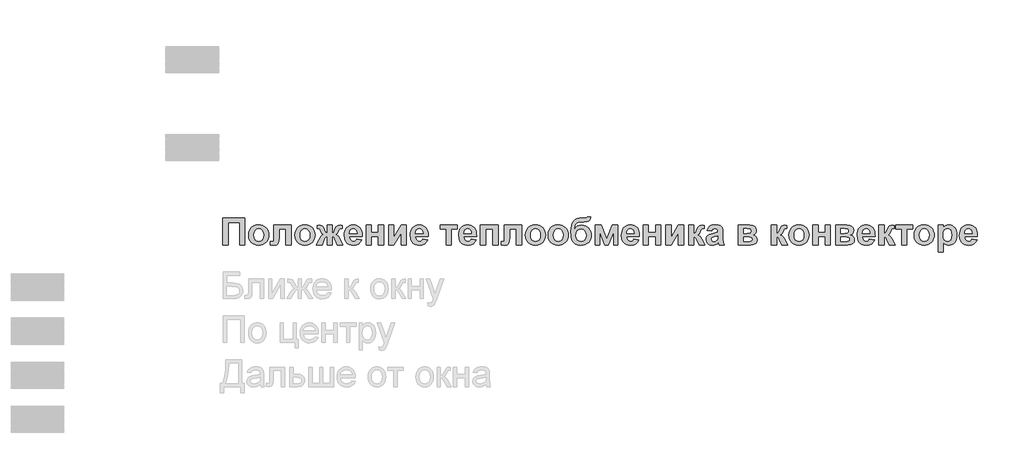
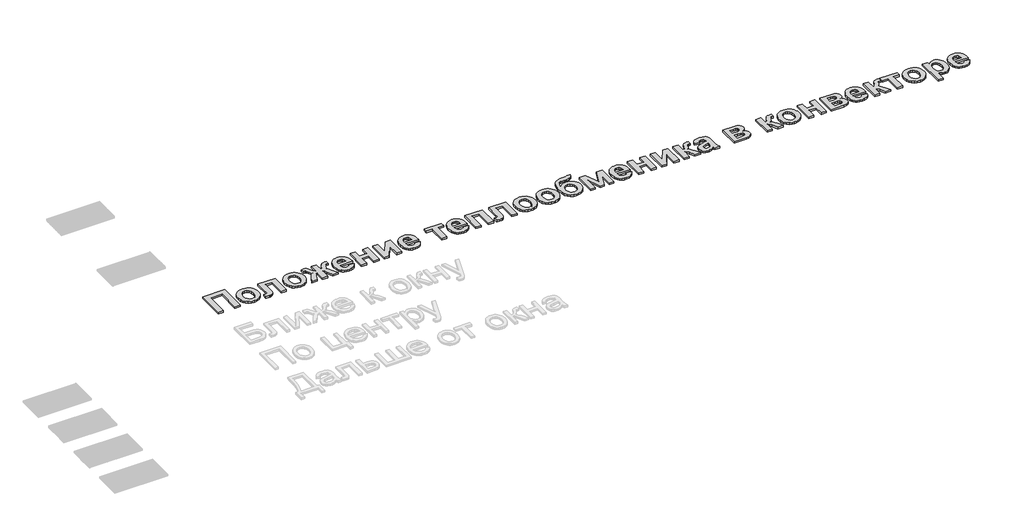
# One storey, part 8 of 10: 1 proxy.
"""IFC4 building model written with IfcOpenShell, lengths in millimetres."""

import ifcopenshell
import ifcopenshell.guid

model = None  # the IFC model being written
_history = None  # IfcOwnerHistory: only IFC2X3 demands one
_inside = {}  # id of a spatial element -> (the spatial element, [elements in it])
_under = {}  # id of a project, library or spatial element -> (it, [spatial elements below it])
_declared = {}  # id of a project -> (the project, [libraries it declares])
_typed = {}  # id of a type object -> (the type object, [elements of that type])
_made_of = {}  # id of a material, layer set ... -> (it, [elements and type objects made of it])


def new_model(schema):
    """Start an empty IFC model of exactly this schema.

    Asked for "IFC4X3", IfcOpenShell would pick the latest addendum, in which some entities
    have other attributes; the version numbers below select the first issue.
    IFC2X3 requires an IfcOwnerHistory on every rooted entity: one is made here for all.
    """
    global model, _history
    if schema == "IFC4X3":
        model = ifcopenshell.file(schema_version=(4, 3, 0, 0))
    else:
        model = ifcopenshell.file(schema=schema)
    _inside.clear()
    _under.clear()
    _declared.clear()
    _typed.clear()
    _made_of.clear()
    _history = None
    if model.schema == "IFC2X3":
        org = make("IfcOrganization", Name="unknown")
        user = make(
            "IfcPersonAndOrganization",
            ThePerson=make("IfcPerson", FamilyName="unknown"),
            TheOrganization=org,
        )
        app = make(
            "IfcApplication",
            ApplicationDeveloper=org,
            Version="unknown",
            ApplicationFullName="unknown",
            ApplicationIdentifier="unknown",
        )
        _history = make(
            "IfcOwnerHistory",
            OwningUser=user,
            OwningApplication=app,
            ChangeAction="ADDED",
            CreationDate=0,
        )
    return model


def make(cls, **values):
    """One entity of the class cls with the attributes given. An attribute that is None is left unset."""
    return model.create_entity(
        cls, **{name: value for name, value in values.items() if value is not None}
    )


def rooted(cls, **values):
    """An entity with a GlobalId (a new one), such as an element, a storey or a relation."""
    return make(cls, GlobalId=ifcopenshell.guid.new(), OwnerHistory=_history, **values)


def si_unit(unit_type, name, prefix=None):
    """IfcSIUnit, for example si_unit("LENGTHUNIT", "METRE", prefix="MILLI")."""
    return make("IfcSIUnit", UnitType=unit_type, Prefix=prefix, Name=name)


def assignment(units):
    """IfcUnitAssignment: the units of a project."""
    return None if units is None else make("IfcUnitAssignment", Units=units)


def point(xyz):
    """IfcCartesianPoint."""
    return None if xyz is None else make("IfcCartesianPoint", Coordinates=xyz)


def direction(xyz):
    """IfcDirection."""
    return None if xyz is None else make("IfcDirection", DirectionRatios=xyz)


def frame(location, z_axis=None, x_axis=None):
    """IfcAxis2Placement3D, a coordinate frame: its origin and axes. An axis left out is left unset."""
    return make(
        "IfcAxis2Placement3D",
        Location=point(location),
        Axis=direction(z_axis),
        RefDirection=direction(x_axis),
    )


def origin():
    """The frame at (0, 0, 0) with its axes left unset."""
    return frame((0.0, 0.0, 0.0))


def origin_with_axes():
    """The frame at (0, 0, 0) with the z axis (0, 0, 1) and the x axis (1, 0, 0) written out."""
    return frame((0.0, 0.0, 0.0), z_axis=(0.0, 0.0, 1.0), x_axis=(1.0, 0.0, 0.0))


def place(relative_to, where):
    """IfcLocalPlacement: puts the frame where relative to a parent placement (None: the world)."""
    return make(
        "IfcLocalPlacement", PlacementRelTo=relative_to, RelativePlacement=where
    )


def context(
    kind, dimensions, precision=None, world=None, true_north=None, identifier=None
):
    """IfcGeometricRepresentationContext, for example the 3D "Model" context."""
    return make(
        "IfcGeometricRepresentationContext",
        ContextIdentifier=identifier,
        ContextType=kind,
        CoordinateSpaceDimension=dimensions,
        Precision=precision,
        WorldCoordinateSystem=world,
        TrueNorth=true_north,
    )


def project(units=None, contexts=None):
    """IfcProject with its units and contexts."""
    return rooted(
        "IfcProject",
        Name="project",
        RepresentationContexts=contexts,
        UnitsInContext=assignment(units),
    )


def spatial(cls, under=None, at=None, **own):
    """A site, building, storey or space (cls), placed at a placement, below another one or the project."""
    s = rooted(cls, ObjectPlacement=at, **own)
    if under is not None:
        _under.setdefault(under.id(), (under, []))[1].append(s)
    return s


def polyline(points):
    """IfcPolyline through the points."""
    return make("IfcPolyline", Points=[point(p) for p in points])


def outline(outer, holes=None, kind="AREA"):
    """IfcArbitraryClosedProfileDef: a profile drawn as a closed curve; with holes, ...WithVoids."""
    if holes is None:
        return make("IfcArbitraryClosedProfileDef", ProfileType=kind, OuterCurve=outer)
    return make(
        "IfcArbitraryProfileDefWithVoids",
        ProfileType=kind,
        OuterCurve=outer,
        InnerCurves=holes,
    )


def extrude(swept, where, along, depth):
    """IfcExtrudedAreaSolid: the profile swept, set in the frame where, extruded along a direction by depth."""
    return make(
        "IfcExtrudedAreaSolid",
        SweptArea=swept,
        Position=where,
        ExtrudedDirection=direction(along),
        Depth=depth,
    )


def shape(context_of_items, identifier, shape_type, items):
    """IfcShapeRepresentation: the items that make up one representation, for example the "Body"."""
    return make(
        "IfcShapeRepresentation",
        ContextOfItems=context_of_items,
        RepresentationIdentifier=identifier,
        RepresentationType=shape_type,
        Items=items,
    )


def made_of(thing, what):
    """Note that an element or type object is made of a material, layer set ...; save() writes the relation."""
    if what is not None:
        _made_of.setdefault(what.id(), (what, []))[1].append(thing)
    return thing


def element(
    cls,
    number,
    at=None,
    inside=None,
    cuts=None,
    type_object=None,
    material=None,
    context=None,
    identifier="Body",
    shape_type=None,
    held_by="IfcProductDefinitionShape",
    body=None,
    shapes=None,
    **own,
):
    """One element of the class cls, such as IfcWall. Its Tag is "e" and its number.

    at: its placement. inside: the storey or other place that contains it. cuts: it is an
    opening in that element (IfcRelVoidsElement). A single representation is given by context,
    identifier, shape_type and body (its items); several are given by shapes. held_by: the class
    of the entity that holds the representations. save() writes the other relations.
    """
    e = rooted(cls, Tag="e%d" % number, ObjectPlacement=at, **own)
    if body is not None:
        shapes = [shape(context, identifier, shape_type, body)]
    if shapes is not None:
        e.Representation = make(held_by, Representations=shapes)
    if inside is not None:
        _inside.setdefault(inside.id(), (inside, []))[1].append(e)
    if cuts is not None:
        rooted(
            "IfcRelVoidsElement", RelatingBuildingElement=cuts, RelatedOpeningElement=e
        )
    if type_object is not None:
        _typed.setdefault(type_object.id(), (type_object, []))[1].append(e)
    return made_of(e, material)


def aggregate(whole, parts):
    """IfcRelAggregates: a whole, such as a stair, and the parts it consists of."""
    return rooted("IfcRelAggregates", RelatingObject=whole, RelatedObjects=parts)


def save(model, path):
    """Write the relations noted so far, then the file.

    IfcRelAggregates (storeys below a building ...), IfcRelContainedInSpatialStructure (elements
    in a storey), IfcRelDefinesByType, IfcRelAssociatesMaterial and IfcRelDeclares: one each for
    every whole, place, type object, material and project.
    """
    for whole, parts in _under.values():
        aggregate(whole, parts)
    for where, things in _inside.values():
        rooted(
            "IfcRelContainedInSpatialStructure",
            RelatedElements=things,
            RelatingStructure=where,
        )
    for kind, things in _typed.values():
        rooted("IfcRelDefinesByType", RelatedObjects=things, RelatingType=kind)
    for what, things in _made_of.values():
        rooted("IfcRelAssociatesMaterial", RelatedObjects=things, RelatingMaterial=what)
    for by, libraries in _declared.values():
        rooted("IfcRelDeclares", RelatingContext=by, RelatedDefinitions=libraries)
    model.write(path)


model = new_model("IFC4")

# Units and contexts
model_context = context("Model", 3, world=origin())
ifc_project = project(units=[si_unit("LENGTHUNIT", "METRE", prefix="MILLI")], contexts=[model_context])

# Site, building, storey
site = spatial("IfcSite", under=ifc_project)
building = spatial("IfcBuilding", under=site)
storey = spatial("IfcBuildingStorey", under=building, Name="Уровень 1", Elevation=0.0)

# Proxy
placement = place(None, origin())
element("IfcBuildingElementProxy", 1, Name="300_", ObjectType="300_", at=placement, inside=storey, context=model_context, shape_type="SweptSolid", body=[
    extrude(outline(polyline([(14598.0356699, -17600.3985377), (14845.8129527, -17600.3985377), (14845.8129527, -17906.4763576), (14787.5124156, -17906.4763576), (14787.5124156, -17653.8406967), (14656.336207, -17653.8406967), (14656.336207, -17906.4763576), (14598.0356699, -17906.4763576), (14598.0356699, -17600.3985377)])), origin_with_axes(), (0.0, 0.0, 1.0), 20.0),
    extrude(outline(polyline([(14889.5383556, -17791.5453508), (14893.134694, -17762.6323078), (14903.9237095, -17734.6491886), (14921.2981046, -17710.3857652), (14944.6505821, -17692.6318093), (14972.529322, -17681.7573927), (15003.4825043, -17678.1325872), (15027.4731184, -17680.1869599), (15049.1911123, -17686.3500783), (15068.636486, -17696.6219421), (15085.8092394, -17711.0025515), (15099.8411273, -17728.5240264), (15109.8639044, -17748.2184868), (15115.8775706, -17770.0859327), (15117.882126, -17794.1263642), (15115.8562203, -17818.3589483), (15109.7785032, -17840.4232914), (15099.6489747, -17860.3193935), (15085.4676347, -17878.0472546), (15068.2165968, -17892.6105276), (15048.8779747, -17903.0128655), (15027.4517681, -17909.2542682), (15003.9379773, -17911.3347357), (14974.2088785, -17907.8712435), (14945.9031327, -17897.480767), (14921.6112422, -17880.3910424), (14903.9237095, -17856.8298065), (14893.134694, -17827.1101967), (14889.5383556, -17791.5453508)]), holes=[polyline([(14947.8388927, -17794.7336615), (14951.8717261, -17825.9050912), (14963.9702262, -17848.8210738), (14981.9898747, -17862.9122681), (15003.786153, -17867.6093329), (15025.5634532, -17862.9122681), (15043.5261675, -17848.8210738), (15055.5677336, -17825.791223), (15059.5815889, -17794.2781885), (15055.5677336, -17763.4483635), (15043.5261675, -17740.6462491), (15025.5634532, -17726.5550548), (15003.786153, -17721.85799), (14981.9898747, -17726.5550548), (14963.9702262, -17740.6462491), (14951.8717261, -17763.5622317), (14947.8388927, -17794.7336615)])]), origin_with_axes(), (0.0, 0.0, 1.0), 20.0),
    extrude(outline(polyline([(15176.1826632, -17682.9909653), (15370.517787, -17682.9909653), (15370.517787, -17906.4763576), (15312.2172498, -17906.4763576), (15312.2172498, -17726.7163681), (15234.4832003, -17726.7163681), (15234.4832003, -17830.108727), (15232.3386819, -17863.6429226), (15225.9051265, -17885.44869), (15216.8715797, -17898.6479164), (15206.9270871, -17906.3624894), (15193.3577889, -17910.0916742), (15173.4498255, -17911.3347357), (15137.3156384, -17907.7668643), (15137.3156384, -17866.5465627), (15146.5769217, -17867.0020356), (15159.8615493, -17867.6093329), (15168.9235631, -17865.5976607), (15173.6396059, -17859.5626442), (15176.1826632, -17814.7744711), (15176.1826632, -17682.9909653)])), origin_with_axes(), (0.0, 0.0, 1.0), 20.0),
    extrude(outline(polyline([(15414.2431898, -17791.5453508), (15417.8395283, -17762.6323078), (15428.6285437, -17734.6491886), (15446.0029388, -17710.3857652), (15469.3554164, -17692.6318093), (15497.2341563, -17681.7573927), (15528.1873386, -17678.1325872), (15552.1779527, -17680.1869599), (15573.8959466, -17686.3500783), (15593.3413202, -17696.6219421), (15610.5140737, -17711.0025515), (15624.5459616, -17728.5240264), (15634.5687386, -17748.2184868), (15640.5824049, -17770.0859327), (15642.5869603, -17794.1263642), (15640.5610546, -17818.3589483), (15634.4833375, -17840.4232914), (15624.3538089, -17860.3193935), (15610.172469, -17878.0472546), (15592.9214311, -17892.6105276), (15573.5828089, -17903.0128655), (15552.1566024, -17909.2542682), (15528.6428115, -17911.3347357), (15498.9137128, -17907.8712435), (15470.607967, -17897.480767), (15446.3160765, -17880.3910424), (15428.6285437, -17856.8298065), (15417.8395283, -17827.1101967), (15414.2431898, -17791.5453508)]), holes=[polyline([(15472.543727, -17794.7336615), (15476.5765604, -17825.9050912), (15488.6750605, -17848.8210738), (15506.6947089, -17862.9122681), (15528.4909872, -17867.6093329), (15550.2682875, -17862.9122681), (15568.2310018, -17848.8210738), (15580.2725678, -17825.791223), (15584.2864232, -17794.2781885), (15580.2725678, -17763.4483635), (15568.2310018, -17740.6462491), (15550.2682875, -17726.5550548), (15528.4909872, -17721.85799), (15506.6947089, -17726.5550548), (15488.6750605, -17740.6462491), (15476.5765604, -17763.5622317), (15472.543727, -17794.7336615)])]), origin_with_axes(), (0.0, 0.0, 1.0), 20.0),
    extrude(outline(polyline([(15778.621547, -17906.4763576), (15778.621547, -17809.3087957), (15763.4011593, -17814.5467346), (15748.332596, -17840.6605169), (15721.6115165, -17906.4763576), (15657.1620946, -17906.4763576), (15688.1342549, -17843.621091), (15712.1414748, -17806.063551), (15724.500923, -17794.9281864), (15737.0975967, -17788.8884253), (15720.8523949, -17776.2490511), (15708.858274, -17752.4505896), (15701.8079324, -17734.9148812), (15695.383866, -17726.184983), (15685.2021479, -17722.9397383), (15666.8788508, -17721.85799), (15666.8788508, -17683.9778233), (15690.3357075, -17682.9909653), (15707.7955038, -17685.0216155), (15722.5224624, -17691.1135662), (15735.4844633, -17705.2901616), (15747.6493866, -17731.5747462), (15762.2245209, -17763.4198964), (15769.0566151, -17768.4965219), (15778.621547, -17770.441771), (15778.621547, -17682.9909653), (15836.9220841, -17682.9909653), (15836.9220841, -17770.441771), (15846.515483, -17768.7052804), (15853.4329784, -17763.4958086), (15867.8942445, -17731.5747462), (15879.8124532, -17705.5273871), (15892.4897836, -17691.3033465), (15907.3875445, -17685.0690606), (15925.9670451, -17682.9909653), (15948.6647803, -17683.9778233), (15948.6647803, -17721.85799), (15930.4363734, -17722.9397383), (15920.2356772, -17726.184983), (15913.7546768, -17734.9148812), (15906.6853571, -17752.4505896), (15894.6912361, -17776.2490511), (15878.4460344, -17788.8884253), (15891.0427081, -17794.9281864), (15903.4021562, -17806.063551), (15927.4093761, -17843.621091), (15958.3815365, -17906.4763576), (15893.9321146, -17906.4763576), (15867.4387715, -17840.6605169), (15854.1541439, -17816.5963629), (15846.8096426, -17811.5482044), (15836.9220841, -17809.3087957), (15836.9220841, -17906.4763576), (15778.621547, -17906.4763576)])), origin_with_axes(), (0.0, 0.0, 1.0), 20.0),
    extrude(outline(polyline([(16113.8496355, -17838.4590643), (16172.1501727, -17848.1758205), (16157.9545992, -17875.38084), (16137.3824044, -17895.2034022), (16110.6423469, -17907.3019024), (16077.9431849, -17911.3347357), (16051.5399876, -17908.9577363), (16028.8090408, -17901.826738), (16009.7503447, -17889.9417408), (15994.3638992, -17873.3027447), (15984.9982368, -17857.0812655), (15978.3084779, -17838.8576031), (15972.9566708, -17796.4037289), (15974.7311175, -17770.1950565), (15980.0544575, -17746.9849142), (15988.9266909, -17726.7733022), (16001.3478178, -17709.5602205), (16016.4828042, -17695.8106309), (16033.4966166, -17685.9894955), (16052.3892548, -17680.0968143), (16073.160719, -17678.1325872), (16096.2427594, -17680.1490039), (16116.7532756, -17686.1982539), (16134.6922673, -17696.2803374), (16150.0597348, -17710.3952542), (16162.3053147, -17728.6758507), (16170.878644, -17751.2549731), (16175.7797227, -17778.1326215), (16177.0085508, -17809.3087957), (16031.2572079, -17809.3087957), (16034.9958817, -17833.8663788), (16044.9973085, -17852.275077), (16059.7432451, -17863.7757689), (16077.7154484, -17867.6093329), (16089.9562839, -17865.8823313), (16100.109535, -17860.7013265), (16108.0992896, -17851.6867578), (16113.8496355, -17838.4590643)]), holes=[polyline([(16118.7080136, -17775.3001491), (16115.1591202, -17752.2513202), (16105.7270346, -17735.4842223), (16092.0248902, -17725.2645481), (16075.6658202, -17721.85799), (16058.3958043, -17725.4448395), (16044.3900112, -17736.2053878), (16035.2046401, -17753.1907331), (16032.244066, -17775.3001491), (16118.7080136, -17775.3001491)])]), origin_with_axes(), (0.0, 0.0, 1.0), 20.0),
    extrude(outline(polyline([(16220.7339536, -17682.9909653), (16279.0344908, -17682.9909653), (16279.0344908, -17765.5833929), (16361.6269184, -17765.5833929), (16361.6269184, -17682.9909653), (16419.9274555, -17682.9909653), (16419.9274555, -17906.4763576), (16361.6269184, -17906.4763576), (16361.6269184, -17809.3087957), (16279.0344908, -17809.3087957), (16279.0344908, -17906.4763576), (16220.7339536, -17906.4763576), (16220.7339536, -17682.9909653)])), origin_with_axes(), (0.0, 0.0, 1.0), 20.0),
    extrude(outline(polyline([(16478.2279926, -17682.9909653), (16536.5285298, -17682.9909653), (16536.5285298, -17820.4678829), (16619.1209574, -17682.9909653), (16677.4214945, -17682.9909653), (16677.4214945, -17906.4763576), (16619.1209574, -17906.4763576), (16619.1209574, -17768.9235278), (16536.5285298, -17906.4763576), (16478.2279926, -17906.4763576), (16478.2279926, -17682.9909653)])), origin_with_axes(), (0.0, 0.0, 1.0), 20.0),
    extrude(outline(polyline([(16862.0398622, -17838.4590643), (16920.3403993, -17848.1758205), (16906.1448258, -17875.38084), (16885.5726311, -17895.2034022), (16858.8325735, -17907.3019024), (16826.1334115, -17911.3347357), (16799.7302142, -17908.9577363), (16776.9992675, -17901.826738), (16757.9405714, -17889.9417408), (16742.5541259, -17873.3027447), (16733.1884634, -17857.0812655), (16726.4987045, -17838.8576031), (16721.1468974, -17796.4037289), (16722.9213441, -17770.1950565), (16728.2446841, -17746.9849142), (16737.1169176, -17726.7733022), (16749.5380444, -17709.5602205), (16764.6730308, -17695.8106309), (16781.6868432, -17685.9894955), (16800.5794815, -17680.0968143), (16821.3509456, -17678.1325872), (16844.4329861, -17680.1490039), (16864.9435022, -17686.1982539), (16882.882494, -17696.2803374), (16898.2499614, -17710.3952542), (16910.4955413, -17728.6758507), (16919.0688707, -17751.2549731), (16923.9699493, -17778.1326215), (16925.1987774, -17809.3087957), (16779.4474345, -17809.3087957), (16783.1861083, -17833.8663788), (16793.1875351, -17852.275077), (16807.9334717, -17863.7757689), (16825.9056751, -17867.6093329), (16838.1465105, -17865.8823313), (16848.2997616, -17860.7013265), (16856.2895162, -17851.6867578), (16862.0398622, -17838.4590643)]), holes=[polyline([(16866.8982403, -17775.3001491), (16863.3493469, -17752.2513202), (16853.9172613, -17735.4842223), (16840.2151168, -17725.2645481), (16823.8560468, -17721.85799), (16806.5860309, -17725.4448395), (16792.5802378, -17736.2053878), (16783.3948667, -17753.1907331), (16780.4342926, -17775.3001491), (16866.8982403, -17775.3001491)])]), origin_with_axes(), (0.0, 0.0, 1.0), 20.0),
    extrude(outline(polyline([(17061.2333641, -17682.9909653), (17255.5684879, -17682.9909653), (17255.5684879, -17726.7163681), (17187.5511945, -17726.7163681), (17187.5511945, -17906.4763576), (17129.2506574, -17906.4763576), (17129.2506574, -17726.7163681), (17061.2333641, -17726.7163681), (17061.2333641, -17682.9909653)])), origin_with_axes(), (0.0, 0.0, 1.0), 20.0),
    extrude(outline(polyline([(17411.0365869, -17838.4590643), (17469.337124, -17848.1758205), (17455.1415505, -17875.38084), (17434.5693558, -17895.2034022), (17407.8292982, -17907.3019024), (17375.1301363, -17911.3347357), (17348.7269389, -17908.9577363), (17325.9959922, -17901.826738), (17306.9372961, -17889.9417408), (17291.5508506, -17873.3027447), (17282.1851882, -17857.0812655), (17275.4954293, -17838.8576031), (17270.1436221, -17796.4037289), (17271.9180688, -17770.1950565), (17277.2414089, -17746.9849142), (17286.1136423, -17726.7733022), (17298.5347691, -17709.5602205), (17313.6697556, -17695.8106309), (17330.6835679, -17685.9894955), (17349.5762062, -17680.0968143), (17370.3476703, -17678.1325872), (17393.4297108, -17680.1490039), (17413.9402269, -17686.1982539), (17431.8792187, -17696.2803374), (17447.2466861, -17710.3952542), (17459.4922661, -17728.6758507), (17468.0655954, -17751.2549731), (17472.9666741, -17778.1326215), (17474.1955021, -17809.3087957), (17328.4441593, -17809.3087957), (17332.182833, -17833.8663788), (17342.1842598, -17852.275077), (17356.9301965, -17863.7757689), (17374.9023998, -17867.6093329), (17387.1432352, -17865.8823313), (17397.2964863, -17860.7013265), (17405.2862409, -17851.6867578), (17411.0365869, -17838.4590643)]), holes=[polyline([(17415.894965, -17775.3001491), (17412.3460716, -17752.2513202), (17402.913986, -17735.4842223), (17389.2118415, -17725.2645481), (17372.8527716, -17721.85799), (17355.5827557, -17725.4448395), (17341.5769626, -17736.2053878), (17332.3915915, -17753.1907331), (17329.4310173, -17775.3001491), (17415.894965, -17775.3001491)])]), origin_with_axes(), (0.0, 0.0, 1.0), 20.0),
    extrude(outline(polyline([(17517.920905, -17682.9909653), (17717.1144069, -17682.9909653), (17717.1144069, -17906.4763576), (17658.8138697, -17906.4763576), (17658.8138697, -17726.7163681), (17576.2214421, -17726.7163681), (17576.2214421, -17906.4763576), (17517.920905, -17906.4763576), (17517.920905, -17682.9909653)])), origin_with_axes(), (0.0, 0.0, 1.0), 20.0),
    extrude(outline(polyline([(17789.9900783, -17682.9909653), (17984.3252021, -17682.9909653), (17984.3252021, -17906.4763576), (17926.024665, -17906.4763576), (17926.024665, -17726.7163681), (17848.2906154, -17726.7163681), (17848.2906154, -17830.108727), (17846.146097, -17863.6429226), (17839.7125416, -17885.44869), (17830.6789949, -17898.6479164), (17820.7345022, -17906.3624894), (17807.165204, -17910.0916742), (17787.2572406, -17911.3347357), (17751.1230535, -17907.7668643), (17751.1230535, -17866.5465627), (17760.3843368, -17867.0020356), (17773.6689644, -17867.6093329), (17782.7309782, -17865.5976607), (17787.447021, -17859.5626442), (17789.9900783, -17814.7744711), (17789.9900783, -17682.9909653)])), origin_with_axes(), (0.0, 0.0, 1.0), 20.0),
    extrude(outline(polyline([(18028.050605, -17791.5453508), (18031.6469434, -17762.6323078), (18042.4359589, -17734.6491886), (18059.810354, -17710.3857652), (18083.1628315, -17692.6318093), (18111.0415714, -17681.7573927), (18141.9947537, -17678.1325872), (18165.9853678, -17680.1869599), (18187.7033617, -17686.3500783), (18207.1487354, -17696.6219421), (18224.3214888, -17711.0025515), (18238.3533767, -17728.5240264), (18248.3761538, -17748.2184868), (18254.38982, -17770.0859327), (18256.3943754, -17794.1263642), (18254.3684697, -17818.3589483), (18248.2907526, -17840.4232914), (18238.161224, -17860.3193935), (18223.9798841, -17878.0472546), (18206.7288462, -17892.6105276), (18187.390224, -17903.0128655), (18165.9640175, -17909.2542682), (18142.4502267, -17911.3347357), (18112.7211279, -17907.8712435), (18084.4153821, -17897.480767), (18060.1234916, -17880.3910424), (18042.4359589, -17856.8298065), (18031.6469434, -17827.1101967), (18028.050605, -17791.5453508)]), holes=[polyline([(18086.3511421, -17794.7336615), (18090.3839755, -17825.9050912), (18102.4824756, -17848.8210738), (18120.5021241, -17862.9122681), (18142.2984024, -17867.6093329), (18164.0757026, -17862.9122681), (18182.0384169, -17848.8210738), (18194.079983, -17825.791223), (18198.0938383, -17794.2781885), (18194.079983, -17763.4483635), (18182.0384169, -17740.6462491), (18164.0757026, -17726.5550548), (18142.2984024, -17721.85799), (18120.5021241, -17726.5550548), (18102.4824756, -17740.6462491), (18090.3839755, -17763.5622317), (18086.3511421, -17794.7336615)])]), origin_with_axes(), (0.0, 0.0, 1.0), 20.0),
    extrude(outline(polyline([(18285.544644, -17791.5453508), (18289.1409825, -17762.6323078), (18299.9299979, -17734.6491886), (18317.304393, -17710.3857652), (18340.6568705, -17692.6318093), (18368.5356104, -17681.7573927), (18399.4887928, -17678.1325872), (18423.4794069, -17680.1869599), (18445.1974007, -17686.3500783), (18464.6427744, -17696.6219421), (18481.8155278, -17711.0025515), (18495.8474157, -17728.5240264), (18505.8701928, -17748.2184868), (18511.8838591, -17770.0859327), (18513.8884145, -17794.1263642), (18511.8625088, -17818.3589483), (18505.7847916, -17840.4232914), (18495.6552631, -17860.3193935), (18481.4739231, -17878.0472546), (18464.2228853, -17892.6105276), (18444.8842631, -17903.0128655), (18423.4580566, -17909.2542682), (18399.9442657, -17911.3347357), (18370.2151669, -17907.8712435), (18341.9094211, -17897.480767), (18317.6175306, -17880.3910424), (18299.9299979, -17856.8298065), (18289.1409825, -17827.1101967), (18285.544644, -17791.5453508)]), holes=[polyline([(18343.8451811, -17794.7336615), (18347.8780145, -17825.9050912), (18359.9765147, -17848.8210738), (18377.9961631, -17862.9122681), (18399.7924414, -17867.6093329), (18421.5697416, -17862.9122681), (18439.532456, -17848.8210738), (18451.574022, -17825.791223), (18455.5878773, -17794.2781885), (18451.574022, -17763.4483635), (18439.532456, -17740.6462491), (18421.5697416, -17726.5550548), (18399.7924414, -17721.85799), (18377.9961631, -17726.5550548), (18359.9765147, -17740.6462491), (18347.8780145, -17763.5622317), (18343.8451811, -17794.7336615)])]), origin_with_axes(), (0.0, 0.0, 1.0), 20.0),
    extrude(outline(polyline([(18727.6570506, -17590.6817815), (18766.5240754, -17590.6817815), (18761.9313899, -17613.8919237), (18752.1007654, -17630.6874886), (18743.5891148, -17636.6323594), (18730.5037566, -17640.8786958), (18690.6119177, -17644.2757648), (18678.8455332, -17644.1239405), (18671.1024931, -17644.1239405), (18644.7419964, -17645.6232056), (18623.8092189, -17650.121001), (18607.2413904, -17658.9268113), (18593.9757409, -17673.3501212), (18585.1509525, -17695.8770541), (18581.9057078, -17728.9937329), (18597.391788, -17708.8200769), (18616.8253004, -17694.4537011), (18640.2631791, -17685.8566492), (18667.7623582, -17682.9909653), (18689.6250596, -17685.1354837), (18709.7417814, -17691.5690391), (18728.1125236, -17702.2916314), (18744.7372861, -17717.3032606), (18758.5200873, -17735.1331286), (18768.3649452, -17754.3104375), (18774.27186, -17774.8351871), (18776.2408316, -17796.7073776), (18774.1935756, -17819.4098572), (18768.0518076, -17840.4517585), (18757.8155276, -17859.8330812), (18743.4847355, -17877.5538256), (18725.8517646, -17892.3329738), (18705.708948, -17902.8895082), (18683.0562857, -17909.2234289), (18657.8937777, -17911.3347357), (18623.8092189, -17907.0931439), (18594.1275652, -17894.3683685), (18570.5663292, -17874.2801137), (18554.8430236, -17847.948084), (18545.9897682, -17808.8343448), (18543.038683, -17750.4009613), (18544.9412315, -17713.2087486), (18550.6488769, -17681.6435245), (18560.1616191, -17655.7052891), (18573.4794583, -17635.3940424), (18591.5370628, -17620.0835091), (18615.2691011, -17609.1474138), (18644.6755732, -17602.5857567), (18679.7564791, -17600.3985377), (18710.500903, -17600.3985377), (18721.2045172, -17597.9693486), (18727.6570506, -17590.6817815)]), holes=[polyline([(18601.3392202, -17797.0869384), (18605.4954108, -17826.256185), (18617.9639827, -17848.6312935), (18636.4675712, -17862.864823), (18658.7288114, -17867.6093329), (18682.3564705, -17862.6940207), (18701.3155319, -17847.948084), (18713.7841038, -17825.4401293), (18717.9402945, -17797.2387627), (18713.7271697, -17768.6388572), (18701.0877954, -17746.1498805), (18682.2426023, -17731.5747462), (18659.4120208, -17726.7163681), (18637.0653794, -17731.489345), (18618.3055874, -17745.8082758), (18605.580812, -17768.1738953), (18601.3392202, -17797.0869384)])]), origin_with_axes(), (0.0, 0.0, 1.0), 20.0),
    extrude(outline(polyline([(18819.9662345, -17682.9909653), (18886.6930211, -17682.9909653), (18948.713254, -17838.6868008), (19011.3407841, -17682.9909653), (19077.4602735, -17682.9909653), (19077.4602735, -17906.4763576), (19028.8764925, -17906.4763576), (19028.8764925, -17759.358596), (18969.6650095, -17906.4763576), (18927.1542012, -17906.4763576), (18868.5500154, -17759.358596), (18868.5500154, -17906.4763576), (18819.9662345, -17906.4763576), (18819.9662345, -17682.9909653)])), origin_with_axes(), (0.0, 0.0, 1.0), 20.0),
    extrude(outline(polyline([(19257.220263, -17838.4590643), (19315.5208001, -17848.1758205), (19301.3252267, -17875.38084), (19280.7530319, -17895.2034022), (19254.0129743, -17907.3019024), (19221.3138124, -17911.3347357), (19194.910615, -17908.9577363), (19172.1796683, -17901.826738), (19153.1209722, -17889.9417408), (19137.7345267, -17873.3027447), (19128.3688643, -17857.0812655), (19121.6791054, -17838.8576031), (19116.3272983, -17796.4037289), (19118.1017449, -17770.1950565), (19123.425085, -17746.9849142), (19132.2973184, -17726.7733022), (19144.7184452, -17709.5602205), (19159.8534317, -17695.8106309), (19176.867244, -17685.9894955), (19195.7598823, -17680.0968143), (19216.5313465, -17678.1325872), (19239.6133869, -17680.1490039), (19260.123903, -17686.1982539), (19278.0628948, -17696.2803374), (19293.4303622, -17710.3952542), (19305.6759422, -17728.6758507), (19314.2492715, -17751.2549731), (19319.1503502, -17778.1326215), (19320.3791782, -17809.3087957), (19174.6278354, -17809.3087957), (19178.3665092, -17833.8663788), (19188.3679359, -17852.275077), (19203.1138726, -17863.7757689), (19221.0860759, -17867.6093329), (19233.3269114, -17865.8823313), (19243.4801625, -17860.7013265), (19251.4699171, -17851.6867578), (19257.220263, -17838.4590643)]), holes=[polyline([(19262.0786411, -17775.3001491), (19258.5297477, -17752.2513202), (19249.0976621, -17735.4842223), (19235.3955177, -17725.2645481), (19219.0364477, -17721.85799), (19201.7664318, -17725.4448395), (19187.7606387, -17736.2053878), (19178.5752676, -17753.1907331), (19175.6146934, -17775.3001491), (19262.0786411, -17775.3001491)])]), origin_with_axes(), (0.0, 0.0, 1.0), 20.0),
    extrude(outline(polyline([(19364.1045811, -17682.9909653), (19422.4051182, -17682.9909653), (19422.4051182, -17765.5833929), (19504.9975459, -17765.5833929), (19504.9975459, -17682.9909653), (19563.298083, -17682.9909653), (19563.298083, -17906.4763576), (19504.9975459, -17906.4763576), (19504.9975459, -17809.3087957), (19422.4051182, -17809.3087957), (19422.4051182, -17906.4763576), (19364.1045811, -17906.4763576), (19364.1045811, -17682.9909653)])), origin_with_axes(), (0.0, 0.0, 1.0), 20.0),
    extrude(outline(polyline([(19621.5986201, -17682.9909653), (19679.8991573, -17682.9909653), (19679.8991573, -17820.4678829), (19762.4915849, -17682.9909653), (19820.792122, -17682.9909653), (19820.792122, -17906.4763576), (19762.4915849, -17906.4763576), (19762.4915849, -17768.9235278), (19679.8991573, -17906.4763576), (19621.5986201, -17906.4763576), (19621.5986201, -17682.9909653)])), origin_with_axes(), (0.0, 0.0, 1.0), 20.0),
    extrude(outline(polyline([(19879.0926592, -17682.9909653), (19937.3931963, -17682.9909653), (19937.3931963, -17775.3001491), (19949.7004549, -17772.2162177), (19957.7756107, -17766.3045584), (19972.2368767, -17734.3075839), (19983.8514368, -17707.3397899), (19996.5287672, -17692.1763364), (20011.7871109, -17685.287308), (20031.1447111, -17682.9909653), (20053.9942706, -17683.9778233), (20054.2220071, -17721.85799), (20035.5096602, -17722.9966724), (20025.0717385, -17726.4127195), (20018.4294247, -17735.8258271), (20011.2557258, -17754.6520422), (19999.0148904, -17780.2913735), (19982.3331937, -17793.7468034), (19995.5798652, -17799.6157621), (20007.7637665, -17809.5555103), (20028.9432585, -17841.6473749), (20031.2206233, -17845.9743679), (20063.7110268, -17906.4763576), (19998.1988347, -17906.4763576), (19970.5668092, -17843.9247397), (19955.8398506, -17819.556937), (19948.1157886, -17815.5146146), (19937.3931963, -17814.1671738), (19937.3931963, -17906.4763576), (19879.0926592, -17906.4763576), (19879.0926592, -17682.9909653)])), origin_with_axes(), (0.0, 0.0, 1.0), 20.0),
    extrude(outline(polyline([(20141.4450763, -17751.0082586), (20088.0029173, -17741.2915024), (20099.5890103, -17713.2799162), (20117.3429662, -17693.6186674), (20143.219523, -17682.0041072), (20179.1734187, -17678.1325872), (20211.6828002, -17680.4763751), (20234.665206, -17687.5077387), (20250.1892423, -17698.1354407), (20260.3235153, -17711.268244), (20265.9030589, -17731.6791254), (20267.7629068, -17764.1410619), (20267.7629068, -17833.0693011), (20270.8373492, -17876.4910553), (20282.3380411, -17906.4763576), (20224.0375039, -17906.4763576), (20218.5718286, -17887.9537912), (20216.5222003, -17880.5903119), (20201.434659, -17894.0172748), (20185.3223035, -17903.6296517), (20168.1471778, -17909.4084647), (20149.8713258, -17911.3347357), (20120.142227, -17906.656649), (20097.4539809, -17892.6223889), (20083.078116, -17871.4523859), (20078.2861611, -17845.3670707), (20080.4211905, -17827.4897575), (20086.8262788, -17811.6620726), (20097.0839091, -17798.5862035), (20110.7765646, -17788.9643375), (20155.1851769, -17775.2242369), (20209.4623696, -17760.7250148), (20209.4623696, -17754.57613), (20207.6499669, -17739.4316546), (20202.2127586, -17729.3732937), (20191.7653479, -17723.7368159), (20174.9223379, -17721.85799), (20162.8333267, -17723.4711234), (20153.7428459, -17728.3105234), (20146.8727956, -17737.2112239), (20141.4450763, -17751.0082586)]), holes=[polyline([(20209.4623696, -17804.4504177), (20176.5924053, -17812.5350625), (20147.1384881, -17821.7583896), (20139.2246457, -17830.0517928), (20136.5866982, -17840.3568683), (20138.7027496, -17850.6904107), (20145.0509038, -17859.5246881), (20154.6632808, -17865.5881717), (20166.5720005, -17867.6093329), (20180.8624642, -17865.256056), (20194.4317624, -17858.1962253), (20202.5923194, -17850.2634048), (20207.3368292, -17840.736429), (20209.4623696, -17815.0022076), (20209.4623696, -17804.4504177)])]), origin_with_axes(), (0.0, 0.0, 1.0), 20.0),
    extrude(outline(polyline([(20442.6645182, -17682.9909653), (20569.134173, -17682.9909653), (20603.1712867, -17686.6537269), (20627.396754, -17697.6420117), (20641.8864872, -17715.9937759), (20646.7163982, -17741.7469754), (20644.0594727, -17759.4250191), (20636.0886961, -17774.6548957), (20624.0945752, -17786.316901), (20609.3676166, -17793.2913305), (20630.1011247, -17801.3664862), (20644.7806382, -17814.3569542), (20653.5200253, -17830.5357329), (20656.4331544, -17848.1758205), (20651.7076226, -17871.6896114), (20637.5310271, -17890.3070681), (20614.1121264, -17902.4340352), (20581.659679, -17906.4763576), (20442.6645182, -17906.4763576), (20442.6645182, -17682.9909653)]), holes=[polyline([(20500.9650553, -17775.3001491), (20537.858364, -17775.3001491), (20560.8787258, -17773.6111036), (20576.4976523, -17768.543967), (20585.4363089, -17759.8330469), (20588.415861, -17747.2126507), (20585.6355783, -17735.5032004), (20577.2947299, -17727.7032262), (20561.8750729, -17723.3192991), (20537.858364, -17721.85799), (20500.9650553, -17721.85799), (20500.9650553, -17775.3001491)]), polyline([(20500.9650553, -17867.6093329), (20548.7138026, -17867.6093329), (20570.9750428, -17866.1764909), (20586.2903206, -17861.877965), (20595.1720431, -17853.8597433), (20598.1326172, -17841.2678142), (20594.7450372, -17828.2488791), (20584.5822971, -17820.01241), (20564.6458667, -17815.6284829), (20531.9372157, -17814.1671738), (20500.9650553, -17814.1671738), (20500.9650553, -17867.6093329)])]), origin_with_axes(), (0.0, 0.0, 1.0), 20.0),
    extrude(outline(polyline([(20816.7596315, -17682.9909653), (20875.0601687, -17682.9909653), (20875.0601687, -17775.3001491), (20887.3674272, -17772.2162177), (20895.442583, -17766.3045584), (20909.9038491, -17734.3075839), (20921.5184092, -17707.3397899), (20934.1957395, -17692.1763364), (20949.4540832, -17685.287308), (20968.8116835, -17682.9909653), (20991.6612429, -17683.9778233), (20991.8889794, -17721.85799), (20973.1766325, -17722.9966724), (20962.7387108, -17726.4127195), (20956.096397, -17735.8258271), (20948.9226981, -17754.6520422), (20936.6818627, -17780.2913735), (20920.000166, -17793.7468034), (20933.2468376, -17799.6157621), (20945.4307389, -17809.5555103), (20966.6102309, -17841.6473749), (20968.8875956, -17845.9743679), (21001.3779991, -17906.4763576), (20935.865807, -17906.4763576), (20908.2337816, -17843.9247397), (20893.506823, -17819.556937), (20885.7827609, -17815.5146146), (20875.0601687, -17814.1671738), (20875.0601687, -17906.4763576), (20816.7596315, -17906.4763576), (20816.7596315, -17682.9909653)])), origin_with_axes(), (0.0, 0.0, 1.0), 20.0),
    extrude(outline(polyline([(21015.9531334, -17791.5453508), (21019.5494719, -17762.6323078), (21030.3384873, -17734.6491886), (21047.7128824, -17710.3857652), (21071.0653599, -17692.6318093), (21098.9440999, -17681.7573927), (21129.8972822, -17678.1325872), (21153.8878963, -17680.1869599), (21175.6058901, -17686.3500783), (21195.0512638, -17696.6219421), (21212.2240172, -17711.0025515), (21226.2559051, -17728.5240264), (21236.2786822, -17748.2184868), (21242.2923485, -17770.0859327), (21244.2969039, -17794.1263642), (21242.2709982, -17818.3589483), (21236.193281, -17840.4232914), (21226.0637525, -17860.3193935), (21211.8824125, -17878.0472546), (21194.6313747, -17892.6105276), (21175.2927525, -17903.0128655), (21153.866546, -17909.2542682), (21130.3527551, -17911.3347357), (21100.6236563, -17907.8712435), (21072.3179105, -17897.480767), (21048.0260201, -17880.3910424), (21030.3384873, -17856.8298065), (21019.5494719, -17827.1101967), (21015.9531334, -17791.5453508)]), holes=[polyline([(21074.2536706, -17794.7336615), (21078.2865039, -17825.9050912), (21090.3850041, -17848.8210738), (21108.4046525, -17862.9122681), (21130.2009308, -17867.6093329), (21151.9782311, -17862.9122681), (21169.9409454, -17848.8210738), (21181.9825114, -17825.791223), (21185.9963667, -17794.2781885), (21181.9825114, -17763.4483635), (21169.9409454, -17740.6462491), (21151.9782311, -17726.5550548), (21130.2009308, -17721.85799), (21108.4046525, -17726.5550548), (21090.3850041, -17740.6462491), (21078.2865039, -17763.5622317), (21074.2536706, -17794.7336615)])]), origin_with_axes(), (0.0, 0.0, 1.0), 20.0),
    extrude(outline(polyline([(21288.0223067, -17682.9909653), (21346.3228439, -17682.9909653), (21346.3228439, -17765.5833929), (21428.9152715, -17765.5833929), (21428.9152715, -17682.9909653), (21487.2158086, -17682.9909653), (21487.2158086, -17906.4763576), (21428.9152715, -17906.4763576), (21428.9152715, -17809.3087957), (21346.3228439, -17809.3087957), (21346.3228439, -17906.4763576), (21288.0223067, -17906.4763576), (21288.0223067, -17682.9909653)])), origin_with_axes(), (0.0, 0.0, 1.0), 20.0),
    extrude(outline(polyline([(21545.5163458, -17682.9909653), (21671.9860006, -17682.9909653), (21706.0231143, -17686.6537269), (21730.2485816, -17697.6420117), (21744.7383147, -17715.9937759), (21749.5682258, -17741.7469754), (21746.9113002, -17759.4250191), (21738.9405237, -17774.6548957), (21726.9464028, -17786.316901), (21712.2194442, -17793.2913305), (21732.9529522, -17801.3664862), (21747.6324657, -17814.3569542), (21756.3718529, -17830.5357329), (21759.2849819, -17848.1758205), (21754.5594501, -17871.6896114), (21740.3828547, -17890.3070681), (21716.963954, -17902.4340352), (21684.5115066, -17906.4763576), (21545.5163458, -17906.4763576), (21545.5163458, -17682.9909653)]), holes=[polyline([(21603.8168829, -17775.3001491), (21640.7101916, -17775.3001491), (21663.7305534, -17773.6111036), (21679.3494799, -17768.543967), (21688.2881364, -17759.8330469), (21691.2676886, -17747.2126507), (21688.4874058, -17735.5032004), (21680.1465575, -17727.7032262), (21664.7269005, -17723.3192991), (21640.7101916, -17721.85799), (21603.8168829, -17721.85799), (21603.8168829, -17775.3001491)]), polyline([(21603.8168829, -17867.6093329), (21651.5656301, -17867.6093329), (21673.8268704, -17866.1764909), (21689.1421482, -17861.877965), (21698.0238707, -17853.8597433), (21700.9844448, -17841.2678142), (21697.5968648, -17828.2488791), (21687.4341247, -17820.01241), (21667.4976942, -17815.6284829), (21634.7890433, -17814.1671738), (21603.8168829, -17814.1671738), (21603.8168829, -17867.6093329)])]), origin_with_axes(), (0.0, 0.0, 1.0), 20.0),
    extrude(outline(polyline([(21929.3282153, -17838.4590643), (21987.6287524, -17848.1758205), (21973.4331789, -17875.38084), (21952.8609842, -17895.2034022), (21926.1209266, -17907.3019024), (21893.4217647, -17911.3347357), (21867.0185673, -17908.9577363), (21844.2876206, -17901.826738), (21825.2289245, -17889.9417408), (21809.842479, -17873.3027447), (21800.4768165, -17857.0812655), (21793.7870576, -17838.8576031), (21788.4352505, -17796.4037289), (21790.2096972, -17770.1950565), (21795.5330373, -17746.9849142), (21804.4052707, -17726.7733022), (21816.8263975, -17709.5602205), (21831.961384, -17695.8106309), (21848.9751963, -17685.9894955), (21867.8678346, -17680.0968143), (21888.6392987, -17678.1325872), (21911.7213392, -17680.1490039), (21932.2318553, -17686.1982539), (21950.1708471, -17696.2803374), (21965.5383145, -17710.3952542), (21977.7838945, -17728.6758507), (21986.3572238, -17751.2549731), (21991.2583025, -17778.1326215), (21992.4871305, -17809.3087957), (21846.7357877, -17809.3087957), (21850.4744614, -17833.8663788), (21860.4758882, -17852.275077), (21875.2218249, -17863.7757689), (21893.1940282, -17867.6093329), (21905.4348636, -17865.8823313), (21915.5881147, -17860.7013265), (21923.5778693, -17851.6867578), (21929.3282153, -17838.4590643)]), holes=[polyline([(21934.1865934, -17775.3001491), (21930.6377, -17752.2513202), (21921.2056144, -17735.4842223), (21907.5034699, -17725.2645481), (21891.1443999, -17721.85799), (21873.8743841, -17725.4448395), (21859.8685909, -17736.2053878), (21850.6832199, -17753.1907331), (21847.7226457, -17775.3001491), (21934.1865934, -17775.3001491)])]), origin_with_axes(), (0.0, 0.0, 1.0), 20.0),
    extrude(outline(polyline([(22036.2125334, -17682.9909653), (22094.5130705, -17682.9909653), (22094.5130705, -17775.3001491), (22106.8203291, -17772.2162177), (22114.8954849, -17766.3045584), (22129.3567509, -17734.3075839), (22140.971311, -17707.3397899), (22153.6486414, -17692.1763364), (22168.9069851, -17685.287308), (22188.2645853, -17682.9909653), (22211.1141448, -17683.9778233), (22211.3418813, -17721.85799), (22192.6295344, -17722.9966724), (22182.1916127, -17726.4127195), (22175.5492989, -17735.8258271), (22168.3756, -17754.6520422), (22156.1347645, -17780.2913735), (22139.4530679, -17793.7468034), (22152.6997394, -17799.6157621), (22164.8836407, -17809.5555103), (22186.0631327, -17841.6473749), (22188.3404975, -17845.9743679), (22220.830901, -17906.4763576), (22155.3187089, -17906.4763576), (22127.6866834, -17843.9247397), (22112.9597248, -17819.556937), (22105.2356628, -17815.5146146), (22094.5130705, -17814.1671738), (22094.5130705, -17906.4763576), (22036.2125334, -17906.4763576), (22036.2125334, -17682.9909653)])), origin_with_axes(), (0.0, 0.0, 1.0), 20.0),
    extrude(outline(polyline([(22225.6892791, -17682.9909653), (22420.0244029, -17682.9909653), (22420.0244029, -17726.7163681), (22352.0071095, -17726.7163681), (22352.0071095, -17906.4763576), (22293.7065724, -17906.4763576), (22293.7065724, -17726.7163681), (22225.6892791, -17726.7163681), (22225.6892791, -17682.9909653)])), origin_with_axes(), (0.0, 0.0, 1.0), 20.0),
    extrude(outline(polyline([(22434.5995372, -17791.5453508), (22438.1958756, -17762.6323078), (22448.9848911, -17734.6491886), (22466.3592862, -17710.3857652), (22489.7117637, -17692.6318093), (22517.5905036, -17681.7573927), (22548.5436859, -17678.1325872), (22572.5343, -17680.1869599), (22594.2522939, -17686.3500783), (22613.6976676, -17696.6219421), (22630.870421, -17711.0025515), (22644.9023089, -17728.5240264), (22654.925086, -17748.2184868), (22660.9387522, -17770.0859327), (22662.9433076, -17794.1263642), (22660.9174019, -17818.3589483), (22654.8396848, -17840.4232914), (22644.7101562, -17860.3193935), (22630.5288163, -17878.0472546), (22613.2777784, -17892.6105276), (22593.9391562, -17903.0128655), (22572.5129497, -17909.2542682), (22548.9991589, -17911.3347357), (22519.2700601, -17907.8712435), (22490.9643143, -17897.480767), (22466.6724238, -17880.3910424), (22448.9848911, -17856.8298065), (22438.1958756, -17827.1101967), (22434.5995372, -17791.5453508)]), holes=[polyline([(22492.9000743, -17794.7336615), (22496.9329077, -17825.9050912), (22509.0314078, -17848.8210738), (22527.0510563, -17862.9122681), (22548.8473346, -17867.6093329), (22570.6246348, -17862.9122681), (22588.5873491, -17848.8210738), (22600.6289151, -17825.791223), (22604.6427705, -17794.2781885), (22600.6289151, -17763.4483635), (22588.5873491, -17740.6462491), (22570.6246348, -17726.5550548), (22548.8473346, -17721.85799), (22527.0510563, -17726.5550548), (22509.0314078, -17740.6462491), (22496.9329077, -17763.5622317), (22492.9000743, -17794.7336615)])]), origin_with_axes(), (0.0, 0.0, 1.0), 20.0),
    extrude(outline(polyline([(22706.6687105, -17682.9909653), (22764.9692476, -17682.9909653), (22764.9692476, -17715.1777202), (22777.0203027, -17700.204047), (22792.6771852, -17688.3807285), (22811.1048615, -17680.6946225), (22831.4682978, -17678.1325872), (22849.3290052, -17680.0375079), (22865.7900821, -17685.75227), (22880.8515287, -17695.2768736), (22894.5133448, -17708.6113185), (22905.8550956, -17725.3428325), (22913.9563462, -17745.0586432), (22918.8170965, -17767.7587507), (22920.4373467, -17793.4431548), (22918.7649069, -17819.8558412), (22913.7475878, -17843.1466401), (22905.3853891, -17863.3155515), (22893.6783111, -17880.3625754), (22879.589489, -17893.9128955), (22864.0820586, -17903.5916957), (22847.1560196, -17909.3989757), (22828.8113723, -17911.3347357), (22811.5223784, -17909.531822), (22795.941408, -17904.1230808), (22780.8348886, -17894.3304124), (22764.9692476, -17879.3757173), (22764.9692476, -17989.0687853), (22706.6687105, -17989.0687853), (22706.6687105, -17682.9909653)]), holes=[polyline([(22764.9692476, -17790.8621414), (22768.6225202, -17824.9846563), (22779.582338, -17848.8590299), (22795.7990727, -17862.9217571), (22815.223096, -17867.6093329), (22833.6602614, -17863.310807), (22848.7383137, -17850.4152292), (22858.7871856, -17827.708005), (22862.1368095, -17793.9745399), (22858.6922954, -17762.0914336), (22848.3587529, -17739.6214349), (22832.9201178, -17726.2988513), (22814.1603258, -17721.85799), (22794.7742586, -17726.2134501), (22778.9750407, -17739.2798302), (22768.4706959, -17760.8863281), (22764.9692476, -17790.8621414)])]), origin_with_axes(), (0.0, 0.0, 1.0), 20.0),
    extrude(outline(polyline([(23090.48058, -17838.4590643), (23148.7811171, -17848.1758205), (23134.5855436, -17875.38084), (23114.0133489, -17895.2034022), (23087.2732913, -17907.3019024), (23054.5741294, -17911.3347357), (23028.170932, -17908.9577363), (23005.4399853, -17901.826738), (22986.3812892, -17889.9417408), (22970.9948437, -17873.3027447), (22961.6291813, -17857.0812655), (22954.9394224, -17838.8576031), (22949.5876152, -17796.4037289), (22951.3620619, -17770.1950565), (22956.685402, -17746.9849142), (22965.5576354, -17726.7733022), (22977.9787622, -17709.5602205), (22993.1137487, -17695.8106309), (23010.127561, -17685.9894955), (23029.0201993, -17680.0968143), (23049.7916634, -17678.1325872), (23072.8737039, -17680.1490039), (23093.38422, -17686.1982539), (23111.3232118, -17696.2803374), (23126.6906792, -17710.3952542), (23138.9362592, -17728.6758507), (23147.5095885, -17751.2549731), (23152.4106672, -17778.1326215), (23153.6394952, -17809.3087957), (23007.8881524, -17809.3087957), (23011.6268261, -17833.8663788), (23021.6282529, -17852.275077), (23036.3741896, -17863.7757689), (23054.3463929, -17867.6093329), (23066.5872283, -17865.8823313), (23076.7404794, -17860.7013265), (23084.730234, -17851.6867578), (23090.48058, -17838.4590643)]), holes=[polyline([(23095.3389581, -17775.3001491), (23091.7900647, -17752.2513202), (23082.3579791, -17735.4842223), (23068.6558346, -17725.2645481), (23052.2967646, -17721.85799), (23035.0267488, -17725.4448395), (23021.0209557, -17736.2053878), (23011.8355846, -17753.1907331), (23008.8750104, -17775.3001491), (23095.3389581, -17775.3001491)])]), origin_with_axes(), (0.0, 0.0, 1.0), 20.0),
])

save(model, "model.ifc")
